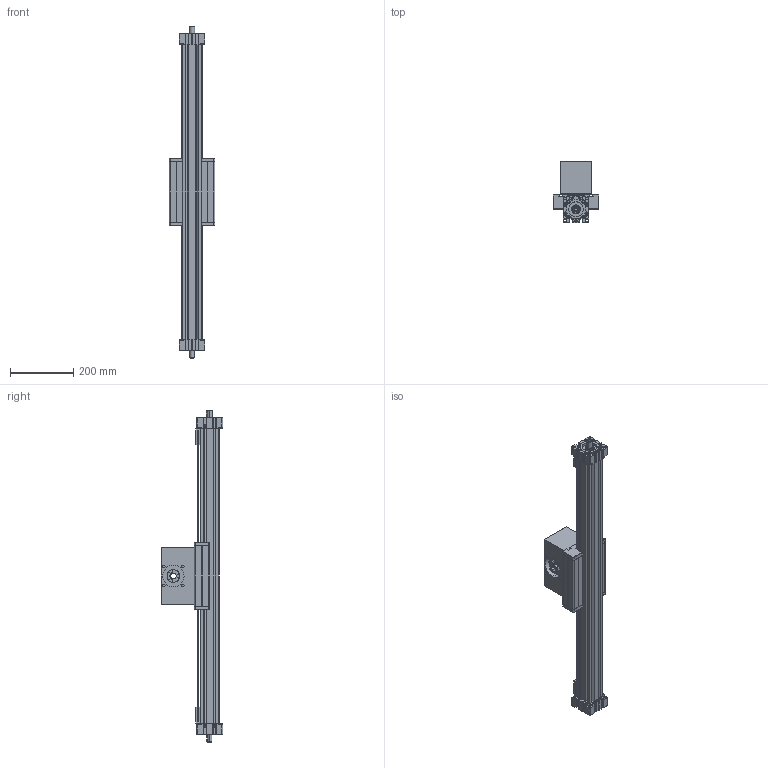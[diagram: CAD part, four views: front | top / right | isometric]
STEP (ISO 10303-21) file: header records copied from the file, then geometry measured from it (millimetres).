
FILE_DESCRIPTION (( 'STEP AP214' ), '1' );
FILE_NAME ('ELSD60 HD.STEP', '2022-12-07T12:34:54', ( '' ), ( '' ), 'SwSTEP 2.0', 'SolidWorks 2020', '' );
FILE_SCHEMA (( 'AUTOMOTIVE_DESIGN' ));
Length unit declared in the file: millimetre
Products named in the file (6): ELSD60 HD; timing belt reverse unit^ELSD60 HD_coupling claw pos.1; load block^ELSD60 HD_standard; profile^ELSD60 HD_2x guide rods; carriage^ELSD60 HD_carriage version 0; drive block^ELSD60 HD_standard
Assembly tree (5 placements, depth 2):
  ELSD60 HD
    profile^ELSD60 HD_2x guide rods
    carriage^ELSD60 HD_carriage version 0
    timing belt reverse unit^ELSD60 HD_coupling claw pos.1
    load block^ELSD60 HD_standard
    drive block^ELSD60 HD_standard
Bounding box: 144 x 194 x 1050 mm (x, y, z)
Volume: 5241099.1 mm3; surface area: 893753.1 mm2
Topology: 14 solids, 14 shells, 1087 faces, 3026 edges, 1988 vertices
Faces by surface type: plane 759, cylinder 272, cone 44, torus 8, sphere 4
Entity records: 35852 total; most frequent: CARTESIAN_POINT 6297, ORIENTED_EDGE 6044, DIRECTION 5822, EDGE_CURVE 3022, VECTOR 2356, LINE 2356, VERTEX_POINT 1988, AXIS2_PLACEMENT_3D 1733
